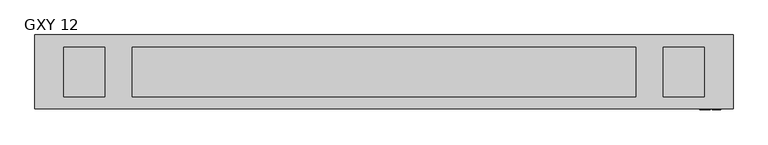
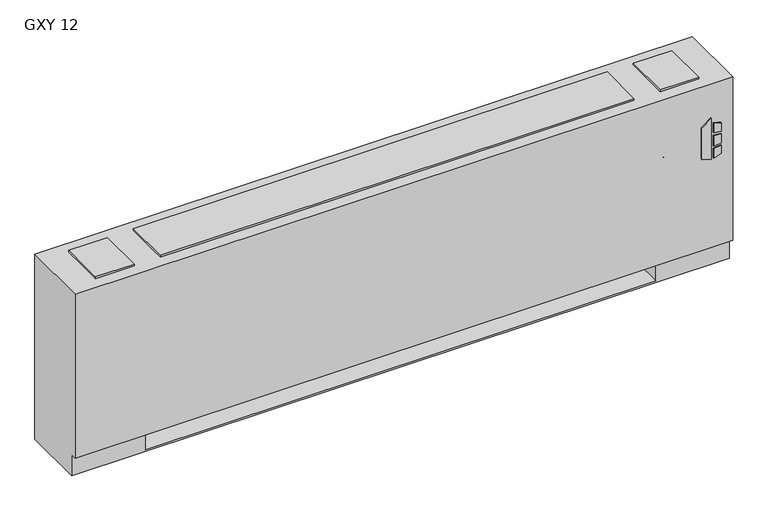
"""IFC4 building model written with IfcOpenShell, lengths in millimetres: proxy geometry, Vertical_Fan_Coil_Unit_-_GXY_-_IEC_-_2-Pipe_TS-FR_RH_2022 : GXY 12."""

from ifc_helpers import new_model, si_unit, point, frame, frame_2d, origin, place, context, project, spatial, polyline, circle_curve, trimmed, segment, composite_curve, outline, extrude, source, transform, mapped, element, save
from ifc_brep_helpers import plane_surface, revolved_surface, advanced_brep


def gxy_12_f87acff0(model_context):
    return source(origin(), model_context, "Body", "SolidModel", [
        extrude(outline(polyline([(391.6086829, 1128.7868862), (381.6606126, 1160.9602728), (523.831537, 1160.9602728), (500.8095309, 1128.7868862), (391.6086829, 1128.7868862)])), frame((0.0, 12.7, 0.0), z_axis=(0.0, 1.0, 0.0), x_axis=(0.0, 0.0, 1.0)), (0.0, 0.0, 1.0), 3.175),
        extrude(outline(polyline([(470.6079683, 1167.7186058), (467.4055757, 1193.8), (496.6344168, 1193.8), (504.6988318, 1167.7186058), (470.6079683, 1167.7186058)])), frame((0.0, 12.7, 0.0), z_axis=(0.0, 1.0, 0.0), x_axis=(0.0, 0.0, 1.0)), (0.0, 0.0, 1.0), 3.175),
        extrude(outline(polyline([(418.7444414, 1193.8), (415.0789404, 1167.7186058), (381.6606126, 1167.7186058), (390.2948498, 1193.8), (418.7444414, 1193.8)])), frame((0.0, 12.7, 0.0), z_axis=(0.0, 1.0, 0.0), x_axis=(0.0, 0.0, 1.0)), (0.0, 0.0, 1.0), 3.175),
        extrude(outline(polyline([(458.0596028, 1193.8), (460.3414292, 1167.7186058), (424.4038806, 1167.7186058), (427.1451456, 1193.8), (458.0596028, 1193.8)])), frame((0.0, 12.7, 0.0), z_axis=(0.0, 1.0, 0.0), x_axis=(0.0, 0.0, 1.0)), (0.0, 0.0, 1.0), 3.175),
        extrude(outline(polyline([(-806.45, 81.534), (-806.45, 223.266), (-127.0, 223.266), (-127.0, 81.534), (-806.45, 81.534)])), frame((0.0, 0.0, 327.025), z_axis=(0.0, 0.0, 1.0), x_axis=(1.0, 0.0, 0.0)), (0.0, 0.0, 1.0), 260.35),
        extrude(outline(polyline([(-711.2, 206.375), (-711.2, 53.975), (-838.2, 53.975), (-838.2, 206.375), (-711.2, 206.375)])), frame((0.0, 0.0, 641.35), z_axis=(0.0, 0.0, 1.0), x_axis=(1.0, 0.0, 0.0)), (0.0, 0.0, 1.0), 6.35),
        extrude(outline(polyline([(1143.0, 206.375), (1143.0, 53.975), (1016.0, 53.975), (1016.0, 206.375), (1143.0, 206.375)])), frame((0.0, 0.0, 641.35), z_axis=(0.0, 0.0, 1.0), x_axis=(1.0, 0.0, 0.0)), (0.0, 0.0, 1.0), 6.35),
        extrude(outline(composite_curve([segment(trimmed(circle_curve(frame_2d((78.9432, 398.5514)), 7.9375), [point((78.9432, 406.4889))], [point((78.9432, 390.6139))], False, "CARTESIAN"), True, "CONTINUOUS"), segment(trimmed(circle_curve(frame_2d((78.9432, 398.5514)), 7.9375), [point((78.9432, 390.6139))], [point((78.9432, 406.4889))], False, "CARTESIAN"), True, "CONTINUOUS")], self_intersect=False)), frame((990.6, 0.0, 0.0), z_axis=(1.0, 0.0, 0.0), x_axis=(0.0, 1.0, 0.0)), (0.0, 0.0, 1.0), 50.8),
        extrude(outline(composite_curve([segment(trimmed(circle_curve(frame_2d((155.9052, 537.3878)), 7.9375), [point((155.9052, 545.3253))], [point((155.9052, 529.4503))], False, "CARTESIAN"), True, "CONTINUOUS"), segment(trimmed(circle_curve(frame_2d((155.9052, 537.3878)), 7.9375), [point((155.9052, 529.4503))], [point((155.9052, 545.3253))], False, "CARTESIAN"), True, "CONTINUOUS")], self_intersect=False)), frame((990.6, 0.0, 0.0), z_axis=(1.0, 0.0, 0.0), x_axis=(0.0, 1.0, 0.0)), (0.0, 0.0, 1.0), 50.8),
        advanced_brep(
        [(1231.9, 244.475, 641.35), (-927.1, 244.475, 641.35), (-927.1, 15.875, 641.35), (1231.9, 15.875, 641.35), (-927.1, 244.475, 0.0), (1231.9, 244.475, 0.0), (1231.9, 34.925, 0.0), (-927.1, 34.925, 0.0), (990.6, 244.475, 73.025), (1219.2, 244.475, 73.025), (1219.2, 244.475, 628.65), (990.6, 244.475, 628.65), (990.6, 244.475, 418.0400565), (1019.175, 244.475, 418.0400565), (1019.175, 244.475, 388.4099435), (990.6, 244.475, 388.4099435), (990.6, 244.475, 290.5125), (1019.175, 244.475, 290.5125), (1019.175, 244.475, 261.9375), (990.6, 244.475, 261.9375), (990.6, 244.475, 119.0625), (1019.175, 244.475, 119.0625), (1019.175, 244.475, 90.4875), (990.6, 244.475, 90.4875), (-685.8, 244.475, 628.65), (-914.4, 244.475, 628.65), (-914.4, 244.475, 73.025), (-685.8, 244.475, 73.025), (-685.8, 244.475, 90.4875), (-714.375, 244.475, 90.4875), (-714.375, 244.475, 119.0625), (-685.8, 244.475, 119.0625), (-685.8, 244.475, 261.9375), (-714.375, 244.475, 261.9375), (-714.375, 244.475, 290.5125), (-685.8, 244.475, 290.5125), (-685.8, 244.475, 388.4099435), (-714.375, 244.475, 388.4099435), (-714.375, 244.475, 418.0400565), (-685.8, 244.475, 418.0400565), (1008.8626, 244.475, 104.775), (997.7374, 244.475, 104.775), (1008.8626, 244.475, 403.225), (997.7374, 244.475, 403.225), (1008.8626, 244.475, 276.225), (997.7374, 244.475, 276.225), (-692.9374, 244.475, 104.775), (-704.0626, 244.475, 104.775), (-692.9374, 244.475, 276.225), (-704.0626, 244.475, 276.225), (-692.9374, 244.475, 403.225), (-704.0626, 244.475, 403.225), (-927.1, 34.925, 73.025), (-927.1, 15.875, 73.025), (1231.9, 15.875, 73.025), (1231.9, 34.925, 73.025), (-685.8, 34.925, 73.025), (-685.8, 219.075, 73.025), (990.6, 219.075, 73.025), (990.6, 34.925, 73.025), (990.6, 34.925, 6.35), (-685.8, 34.925, 6.35), (990.6, 41.275, 628.65), (1219.2, 41.275, 628.65), (1219.2, 41.275, 73.025), (990.6, 41.275, 73.025), (-685.8, 41.275, 628.65), (-685.8, 41.275, 73.025), (-914.4, 41.275, 73.025), (-914.4, 41.275, 628.65), (990.6, 219.075, 73.025), (990.6, 238.125, 90.4875), (990.6, 238.125, 119.0625), (990.6, 238.125, 261.9375), (990.6, 238.125, 290.5125), (990.6, 238.125, 388.4099435), (990.6, 238.125, 418.0400565), (-685.8, 219.075, 73.025), (-685.8, 238.125, 418.0400565), (-685.8, 238.125, 388.4099435), (-685.8, 238.125, 290.5125), (-685.8, 238.125, 261.9375), (-685.8, 238.125, 119.0625), (-685.8, 238.125, 90.4875), (-685.8, 219.075, 6.35), (990.6, 219.075, 6.35), (1019.175, 238.125, 90.4875), (1019.175, 238.125, 119.0625), (997.7374, 238.125, 104.775), (1008.8626, 238.125, 104.775), (1019.175, 238.125, 261.9375), (1019.175, 238.125, 290.5125), (997.7374, 238.125, 276.225), (1008.8626, 238.125, 276.225), (1019.175, 238.125, 388.4099435), (1019.175, 238.125, 418.0400565), (997.7374, 238.125, 403.225), (1008.8626, 238.125, 403.225), (-714.375, 238.125, 119.0625), (-714.375, 238.125, 90.4875), (-704.0626, 238.125, 104.775), (-692.9374, 238.125, 104.775), (-714.375, 238.125, 290.5125), (-714.375, 238.125, 261.9375), (-704.0626, 238.125, 276.225), (-692.9374, 238.125, 276.225), (-714.375, 238.125, 418.0400565), (-714.375, 238.125, 388.4099435), (-704.0626, 238.125, 403.225), (-692.9374, 238.125, 403.225)],
        [
            (0, 1),
            (1, 2),
            (2, 3),
            (3, 0),
            (4, 5),
            (5, 6),
            (6, 7),
            (7, 4),
            (0, 5),
            (4, 1),
            (8, 9),
            (9, 10),
            (10, 11),
            (11, 12),
            (12, 13),
            (13, 14),
            (14, 15),
            (15, 16),
            (16, 17),
            (17, 18),
            (18, 19),
            (19, 20),
            (20, 21),
            (21, 22),
            (22, 23),
            (23, 8),
            (24, 25),
            (25, 26),
            (26, 27),
            (27, 28),
            (28, 29),
            (29, 30),
            (30, 31),
            (31, 32),
            (32, 33),
            (33, 34),
            (34, 35),
            (35, 36),
            (36, 37),
            (37, 38),
            (38, 39),
            (39, 24),
            (40, 41, circle_curve(frame((1003.3, 244.475, 104.775), z_axis=(0.0, -1.0, 0.0), x_axis=(-1.0, 0.0, 0.0)), 5.5626)),
            (41, 40, circle_curve(frame((1003.3, 244.475, 104.775), z_axis=(0.0, -1.0, 0.0), x_axis=(-1.0, 0.0, 0.0)), 5.5626)),
            (42, 43, circle_curve(frame((1003.3, 244.475, 403.225), z_axis=(0.0, -1.0, 0.0), x_axis=(-1.0, 0.0, 0.0)), 5.5626)),
            (43, 42, circle_curve(frame((1003.3, 244.475, 403.225), z_axis=(0.0, -1.0, 0.0), x_axis=(-1.0, 0.0, 0.0)), 5.5626)),
            (44, 45, circle_curve(frame((1003.3, 244.475, 276.225), z_axis=(0.0, -1.0, 0.0), x_axis=(-1.0, 0.0, 0.0)), 5.5626)),
            (45, 44, circle_curve(frame((1003.3, 244.475, 276.225), z_axis=(0.0, -1.0, 0.0), x_axis=(-1.0, 0.0, 0.0)), 5.5626)),
            (46, 47, circle_curve(frame((-698.5, 244.475, 104.775), z_axis=(0.0, -1.0, 0.0), x_axis=(-1.0, 0.0, 0.0)), 5.5626)),
            (47, 46, circle_curve(frame((-698.5, 244.475, 104.775), z_axis=(0.0, -1.0, 0.0), x_axis=(-1.0, 0.0, 0.0)), 5.5626)),
            (48, 49, circle_curve(frame((-698.5, 244.475, 276.225), z_axis=(0.0, -1.0, 0.0), x_axis=(-1.0, 0.0, 0.0)), 5.5626)),
            (49, 48, circle_curve(frame((-698.5, 244.475, 276.225), z_axis=(0.0, -1.0, 0.0), x_axis=(-1.0, 0.0, 0.0)), 5.5626)),
            (50, 51, circle_curve(frame((-698.5, 244.475, 403.225), z_axis=(0.0, -1.0, 0.0), x_axis=(-1.0, 0.0, 0.0)), 5.5626)),
            (51, 50, circle_curve(frame((-698.5, 244.475, 403.225), z_axis=(0.0, -1.0, 0.0), x_axis=(-1.0, 0.0, 0.0)), 5.5626)),
            (7, 52),
            (52, 53),
            (53, 2),
            (53, 54),
            (54, 3),
            (54, 55),
            (55, 6),
            (52, 56),
            (56, 57),
            (57, 58),
            (58, 59),
            (59, 55),
            (59, 60),
            (60, 61),
            (61, 56),
            (62, 63),
            (63, 64),
            (64, 65),
            (65, 62),
            (66, 67),
            (67, 68),
            (68, 69),
            (69, 66),
            (65, 70),
            (70, 8),
            (23, 71),
            (71, 72),
            (72, 20),
            (19, 73),
            (73, 74),
            (74, 16),
            (15, 75),
            (75, 76),
            (76, 12),
            (11, 62),
            (64, 9),
            (63, 10),
            (69, 25),
            (24, 66),
            (68, 26),
            (67, 77),
            (77, 27),
            (39, 78),
            (78, 79),
            (79, 36),
            (35, 80),
            (80, 81),
            (81, 32),
            (31, 82),
            (82, 83),
            (83, 28),
            (57, 84),
            (84, 85),
            (85, 58),
            (85, 60),
            (84, 61),
            (71, 86),
            (86, 87),
            (87, 72),
            (88, 89, circle_curve(frame((1003.3, 238.125, 104.775), z_axis=(0.0, 1.0, 0.0), x_axis=(-1.0, 0.0, 0.0)), 5.5626)),
            (89, 88, circle_curve(frame((1003.3, 238.125, 104.775), z_axis=(0.0, 1.0, 0.0), x_axis=(-1.0, 0.0, 0.0)), 5.5626)),
            (73, 90),
            (90, 91),
            (91, 74),
            (92, 93, circle_curve(frame((1003.3, 238.125, 276.225), z_axis=(0.0, 1.0, 0.0), x_axis=(-1.0, 0.0, 0.0)), 5.5626)),
            (93, 92, circle_curve(frame((1003.3, 238.125, 276.225), z_axis=(0.0, 1.0, 0.0), x_axis=(-1.0, 0.0, 0.0)), 5.5626)),
            (75, 94),
            (94, 95),
            (95, 76),
            (96, 97, circle_curve(frame((1003.3, 238.125, 403.225), z_axis=(0.0, 1.0, 0.0), x_axis=(-1.0, 0.0, 0.0)), 5.5626)),
            (97, 96, circle_curve(frame((1003.3, 238.125, 403.225), z_axis=(0.0, 1.0, 0.0), x_axis=(-1.0, 0.0, 0.0)), 5.5626)),
            (98, 99),
            (99, 83),
            (82, 98),
            (100, 101, circle_curve(frame((-698.5, 238.125, 104.775), z_axis=(0.0, 1.0, 0.0), x_axis=(-1.0, 0.0, 0.0)), 5.5626)),
            (101, 100, circle_curve(frame((-698.5, 238.125, 104.775), z_axis=(0.0, 1.0, 0.0), x_axis=(-1.0, 0.0, 0.0)), 5.5626)),
            (102, 103),
            (103, 81),
            (80, 102),
            (104, 105, circle_curve(frame((-698.5, 238.125, 276.225), z_axis=(0.0, 1.0, 0.0), x_axis=(-1.0, 0.0, 0.0)), 5.5626)),
            (105, 104, circle_curve(frame((-698.5, 238.125, 276.225), z_axis=(0.0, 1.0, 0.0), x_axis=(-1.0, 0.0, 0.0)), 5.5626)),
            (106, 107),
            (107, 79),
            (78, 106),
            (108, 109, circle_curve(frame((-698.5, 238.125, 403.225), z_axis=(0.0, 1.0, 0.0), x_axis=(-1.0, 0.0, 0.0)), 5.5626)),
            (109, 108, circle_curve(frame((-698.5, 238.125, 403.225), z_axis=(0.0, 1.0, 0.0), x_axis=(-1.0, 0.0, 0.0)), 5.5626)),
            (87, 21),
            (86, 22),
            (91, 17),
            (90, 18),
            (95, 13),
            (94, 14),
            (30, 98),
            (99, 29),
            (34, 102),
            (103, 33),
            (38, 106),
            (107, 37),
            (88, 41),
            (40, 89),
            (96, 43),
            (42, 97),
            (92, 45),
            (44, 93),
            (100, 47),
            (46, 101),
            (104, 49),
            (48, 105),
            (108, 51),
            (50, 109),
        ],
        [
            plane_surface(frame((-927.1, 244.475, 641.35), z_axis=(0.0, 0.0, 1.0), x_axis=(-1.0, 0.0, 0.0))),
            plane_surface(frame((-927.1, 244.475, 0.0), z_axis=(0.0, 0.0, -1.0), x_axis=(1.0, 0.0, 0.0))),
            plane_surface(frame((1231.9, 244.475, 641.35), z_axis=(0.0, 1.0, 0.0), x_axis=(0.0, 0.0, -1.0))),
            plane_surface(frame((-927.1, 244.475, 641.35), z_axis=(-1.0, 0.0, 0.0), x_axis=(0.0, 0.0, -1.0))),
            plane_surface(frame((-927.1, 15.875, 641.35), z_axis=(0.0, -1.0, 0.0), x_axis=(0.0, 0.0, -1.0))),
            plane_surface(frame((1231.9, 15.875, 641.35), z_axis=(1.0, 0.0, 0.0), x_axis=(0.0, 0.0, -1.0))),
            plane_surface(frame((-927.1, 15.875, 73.025), z_axis=(0.0, 0.0, -1.0), x_axis=(1.0, 0.0, 0.0))),
            plane_surface(frame((-927.1, 34.925, 73.025), z_axis=(0.0, -1.0, 0.0), x_axis=(1.0, 0.0, 0.0))),
            plane_surface(frame((990.6, 41.275, 628.65), z_axis=(0.0, 1.0, 0.0), x_axis=(0.0, 0.0, -1.0))),
            plane_surface(frame((990.6, 41.275, 628.65), z_axis=(1.0, 0.0, 0.0), x_axis=(0.0, 1.0, 0.0))),
            plane_surface(frame((990.6, 41.275, 73.025), z_axis=(0.0, 0.0, 1.0), x_axis=(0.0, 1.0, 0.0))),
            plane_surface(frame((1219.2, 41.275, 73.025), z_axis=(-1.0, 0.0, 0.0), x_axis=(0.0, 1.0, 0.0))),
            plane_surface(frame((1219.2, 41.275, 628.65), z_axis=(0.0, 0.0, -1.0), x_axis=(0.0, 1.0, 0.0))),
            plane_surface(frame((-685.8, 41.275, 628.65), z_axis=(0.0, 0.0, -1.0), x_axis=(0.0, 1.0, 0.0))),
            plane_surface(frame((-914.4, 41.275, 628.65), z_axis=(1.0, 0.0, 0.0), x_axis=(0.0, 1.0, 0.0))),
            plane_surface(frame((-914.4, 41.275, 73.025), z_axis=(0.0, 0.0, 1.0), x_axis=(0.0, 1.0, 0.0))),
            plane_surface(frame((-685.8, 41.275, 73.025), z_axis=(-1.0, 0.0, 0.0), x_axis=(0.0, 1.0, 0.0))),
            plane_surface(frame((990.6, 219.075, 73.025), z_axis=(0.0, -1.0, 0.0), x_axis=(0.0, 0.0, -1.0))),
            plane_surface(frame((990.6, 219.075, 73.025), z_axis=(-1.0, 0.0, 0.0), x_axis=(0.0, -1.0, 0.0))),
            plane_surface(frame((990.6, 219.075, 6.35), z_axis=(0.0, 0.0, 1.0), x_axis=(0.0, -1.0, 0.0))),
            plane_surface(frame((-685.8, 219.075, 6.35), z_axis=(1.0, 0.0, 0.0), x_axis=(0.0, -1.0, 0.0))),
            plane_surface(frame((1019.175, 238.125, 119.0625), z_axis=(0.0, -1.0, 0.0), x_axis=(-1.0, 0.0, 0.0))),
            plane_surface(frame((990.6, 244.475, 119.0625), z_axis=(0.0, 0.0, 1.0), x_axis=(0.0, -1.0, 0.0))),
            plane_surface(frame((1019.175, 244.475, 119.0625), z_axis=(1.0, 0.0, 0.0), x_axis=(0.0, -1.0, 0.0))),
            plane_surface(frame((1019.175, 244.475, 90.4875), z_axis=(0.0, 0.0, -1.0), x_axis=(0.0, -1.0, 0.0))),
            plane_surface(frame((990.6, 244.475, 290.5125), z_axis=(0.0, 0.0, 1.0), x_axis=(0.0, -1.0, 0.0))),
            plane_surface(frame((1019.175, 244.475, 290.5125), z_axis=(1.0, 0.0, 0.0), x_axis=(0.0, -1.0, 0.0))),
            plane_surface(frame((1019.175, 244.475, 261.9375), z_axis=(0.0, 0.0, -1.0), x_axis=(0.0, -1.0, 0.0))),
            plane_surface(frame((990.6, 244.475, 418.0400565), z_axis=(0.0, 0.0, 1.0), x_axis=(0.0, -1.0, 0.0))),
            plane_surface(frame((1019.175, 244.475, 418.0400565), z_axis=(1.0, 0.0, 0.0), x_axis=(0.0, -1.0, 0.0))),
            plane_surface(frame((1019.175, 244.475, 388.4099435), z_axis=(0.0, 0.0, -1.0), x_axis=(0.0, -1.0, 0.0))),
            plane_surface(frame((-714.375, 244.475, 119.0625), z_axis=(0.0, 0.0, 1.0), x_axis=(0.0, -1.0, 0.0))),
            plane_surface(frame((-685.8, 244.475, 90.4875), z_axis=(0.0, 0.0, -1.0), x_axis=(0.0, -1.0, 0.0))),
            plane_surface(frame((-714.375, 244.475, 90.4875), z_axis=(-1.0, 0.0, 0.0), x_axis=(0.0, -1.0, 0.0))),
            plane_surface(frame((-714.375, 244.475, 290.5125), z_axis=(0.0, 0.0, 1.0), x_axis=(0.0, -1.0, 0.0))),
            plane_surface(frame((-685.8, 244.475, 261.9375), z_axis=(0.0, 0.0, -1.0), x_axis=(0.0, -1.0, 0.0))),
            plane_surface(frame((-714.375, 244.475, 261.9375), z_axis=(-1.0, 0.0, 0.0), x_axis=(0.0, -1.0, 0.0))),
            plane_surface(frame((-714.375, 244.475, 418.0400565), z_axis=(0.0, 0.0, 1.0), x_axis=(0.0, -1.0, 0.0))),
            plane_surface(frame((-685.8, 244.475, 388.4099435), z_axis=(0.0, 0.0, -1.0), x_axis=(0.0, -1.0, 0.0))),
            plane_surface(frame((-714.375, 244.475, 388.4099435), z_axis=(-1.0, 0.0, 0.0), x_axis=(0.0, -1.0, 0.0))),
            revolved_surface(polyline([(997.7374, 238.125, 104.775), (997.7374, 244.475, 104.775)]), (1003.3, 244.475, 104.775), (0.0, -1.0, 0.0)),
            revolved_surface(polyline([(997.7374, 238.125, 403.225), (997.7374, 244.475, 403.225)]), (1003.3, 244.475, 403.225), (0.0, -1.0, 0.0)),
            revolved_surface(polyline([(997.7374, 238.125, 276.225), (997.7374, 244.475, 276.225)]), (1003.3, 244.475, 276.225), (0.0, -1.0, 0.0)),
            revolved_surface(polyline([(-704.0626, 238.125, 104.775), (-704.0626, 244.475, 104.775)]), (-698.5, 244.475, 104.775), (0.0, -1.0, 0.0)),
            revolved_surface(polyline([(-704.0626, 238.125, 276.225), (-704.0626, 244.475, 276.225)]), (-698.5, 244.475, 276.225), (0.0, -1.0, 0.0)),
            revolved_surface(polyline([(-704.0626, 238.125, 403.225), (-704.0626, 244.475, 403.225)]), (-698.5, 244.475, 403.225), (0.0, -1.0, 0.0)),
        ],
        [
            (0, [[1, 2, 3, 4]]),
            (1, [[5, 6, 7, 8]]),
            (2, [[-1, 9, -5, 10], [11, 12, 13, 14, 15, 16, 17, 18, 19, 20, 21, 22, 23, 24, 25, 26], [27, 28, 29, 30, 31, 32, 33, 34, 35, 36, 37, 38, 39, 40, 41, 42], [43, 44], [45, 46], [47, 48], [49, 50], [51, 52], [53, 54]]),
            (3, [[-2, -10, -8, 55, 56, 57]]),
            (4, [[-3, -57, 58, 59]]),
            (5, [[-4, -59, 60, 61, -6, -9]]),
            (6, [[-56, 62, 63, 64, 65, 66, -60, -58]]),
            (7, [[-7, -61, -66, 67, 68, 69, -62, -55]]),
            (8, [[70, 71, 72, 73]]),
            (8, [[74, 75, 76, 77]]),
            (9, [[-73, 78, 79, -26, 80, 81, 82, -22, 83, 84, 85, -18, 86, 87, 88, -14, 89]]),
            (10, [[-72, 90, -11, -79, -78]]),
            (11, [[-71, 91, -12, -90]]),
            (12, [[-70, -89, -13, -91]]),
            (13, [[-77, 92, -27, 93]]),
            (14, [[-76, 94, -28, -92]]),
            (15, [[-75, 95, 96, -29, -94]]),
            (16, [[-74, -93, -42, 97, 98, 99, -38, 100, 101, 102, -34, 103, 104, 105, -30, -96, -95]]),
            (17, [[-64, 106, 107, 108]]),
            (18, [[-108, 109, -67, -65]]),
            (19, [[-107, 110, -68, -109]]),
            (20, [[-106, -63, -69, -110]]),
            (21, [[111, 112, 113, -81], [114, 115]]),
            (21, [[116, 117, 118, -84], [119, 120]]),
            (21, [[121, 122, 123, -87], [124, 125]]),
            (21, [[126, 127, -104, 128], [129, 130]]),
            (21, [[131, 132, -101, 133], [134, 135]]),
            (21, [[136, 137, -98, 138], [139, 140]]),
            (22, [[-113, 141, -23, -82]]),
            (23, [[-112, 142, -24, -141]]),
            (24, [[-111, -80, -25, -142]]),
            (25, [[-118, 143, -19, -85]]),
            (26, [[-117, 144, -20, -143]]),
            (27, [[-116, -83, -21, -144]]),
            (28, [[-123, 145, -15, -88]]),
            (29, [[-122, 146, -16, -145]]),
            (30, [[-121, -86, -17, -146]]),
            (31, [[-128, -103, -33, 147]]),
            (32, [[-127, 148, -31, -105]]),
            (33, [[-126, -147, -32, -148]]),
            (34, [[-133, -100, -37, 149]]),
            (35, [[-132, 150, -35, -102]]),
            (36, [[-131, -149, -36, -150]]),
            (37, [[-138, -97, -41, 151]]),
            (38, [[-137, 152, -39, -99]]),
            (39, [[-136, -151, -40, -152]]),
            (40, [[153, -43, 154, -114]]),
            (40, [[-153, -115, -154, -44]]),
            (41, [[155, -45, 156, -124]]),
            (41, [[-155, -125, -156, -46]]),
            (42, [[157, -47, 158, -119]]),
            (42, [[-157, -120, -158, -48]]),
            (43, [[159, -49, 160, -129]]),
            (43, [[-159, -130, -160, -50]]),
            (44, [[161, -51, 162, -134]]),
            (44, [[-161, -135, -162, -52]]),
            (45, [[163, -53, 164, -139]]),
            (45, [[-163, -140, -164, -54]]),
        ],
    ),
        extrude(outline(polyline([(930.275, 206.375), (930.275, 53.975), (-625.475, 53.975), (-625.475, 206.375), (930.275, 206.375)])), frame((0.0, 0.0, 641.35), z_axis=(0.0, 0.0, 1.0), x_axis=(1.0, 0.0, 0.0)), (0.0, 0.0, 1.0), 6.35),
    ])


if __name__ == "__main__":
    model = new_model("IFC4")
    model_context = context("Model", 3, world=origin())
    ifc_project = project(units=[si_unit("LENGTHUNIT", "METRE", prefix="MILLI")], contexts=[model_context])
    site = spatial("IfcSite", under=ifc_project)
    building = spatial("IfcBuilding", under=site)
    placement = place(None, origin())
    gxy_12_shape = gxy_12_f87acff0(model_context)
    element("IfcBuildingElementProxy", 1, Name="Vertical_Fan_Coil_Unit_-_GXY_-_IEC_-_2-Pipe_TS-FR_RH_2022 : GXY 12", ObjectType="Vertical_Fan_Coil_Unit_-_GXY_-_IEC_-_2-Pipe_TS-FR_RH_2022 : GXY 12", at=placement, inside=building, context=model_context, shape_type="MappedRepresentation", body=[
        mapped(gxy_12_shape, transform((0.0, 0.0, 0.0), x_axis=(1.0, 0.0, 0.0), y_axis=(0.0, 1.0, 0.0), z_axis=(0.0, 0.0, 1.0))),
    ])
    save(model, "model.ifc")
